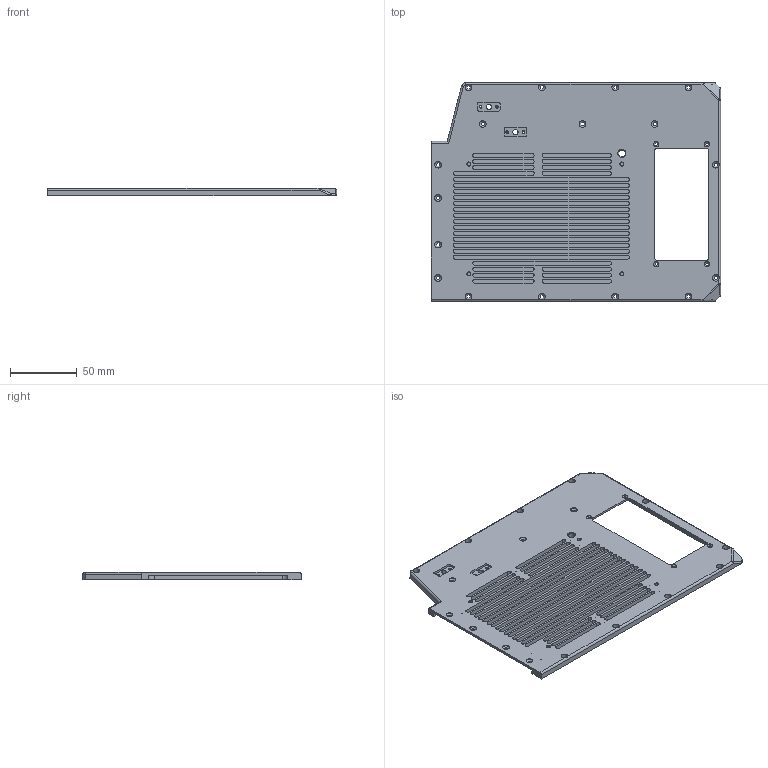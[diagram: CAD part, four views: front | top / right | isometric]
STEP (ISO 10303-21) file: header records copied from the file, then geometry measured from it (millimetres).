
FILE_DESCRIPTION (( 'STEP AP203' ), '1' );
FILE_NAME ('干扰枪-外盒体1.STEP', '2026-09-24T07:45:06', ( '' ), ( '' ), 'SwSTEP 2.0', 'SolidWorks 2016', '' );
FILE_SCHEMA (( 'CONFIG_CONTROL_DESIGN' ));
Length unit declared in the file: millimetre
Products named in the file (1): 干扰枪-外盒体1
Bounding box: 217 x 164 x 5.5 mm (x, y, z)
Volume: 92175.7 mm3; surface area: 96601.8 mm2
Topology: 1 solids, 1 shells, 559 faces, 1417 edges, 871 vertices
Faces by surface type: cylinder 295, plane 148, cone 108, sphere 8
Entity records: 16918 total; most frequent: DIRECTION 3128, CARTESIAN_POINT 2921, ORIENTED_EDGE 2778, EDGE_CURVE 1389, AXIS2_PLACEMENT_3D 1194, VERTEX_POINT 871, LINE 740, VECTOR 740
